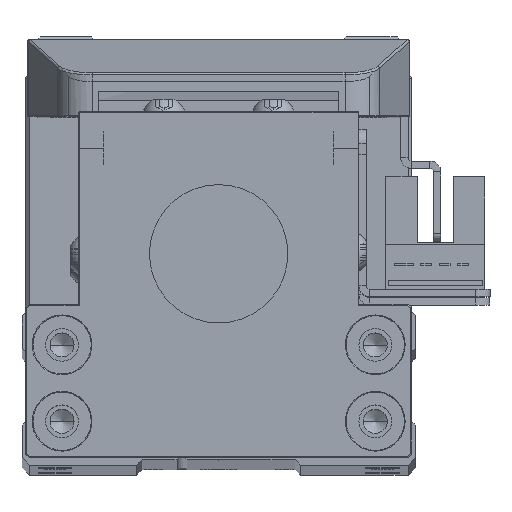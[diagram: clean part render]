
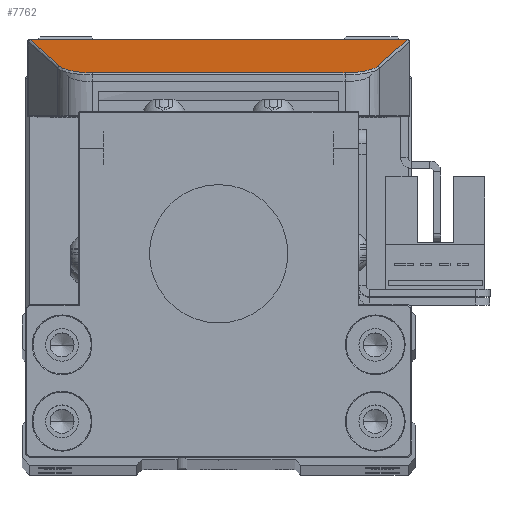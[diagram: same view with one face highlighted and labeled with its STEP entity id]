
A CAD part, top view. The second image highlights one B-rep face of the part: STEP entity #7762.
In plain terms, the highlighted planar face has unit normal (0, 0.962, 0.274) as drawn and (0, 0.274, 0.962) by its records, which use the part's own axes.
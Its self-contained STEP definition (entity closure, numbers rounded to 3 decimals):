
#506 = LINE ( 'NONE', #32580, #20196 ) ;
#697 = LINE ( 'NONE', #30013, #6692 ) ;
#1534 = CARTESIAN_POINT ( 'NONE',  ( -21.179, 24.03, -4.281 ) ) ;
#1935 = VECTOR ( 'NONE', #29127, 1000. ) ;
#2291 = ORIENTED_EDGE ( 'NONE', *, *, #24499, .T. ) ;
#2480 = EDGE_LOOP ( 'NONE', ( #31175, #8167, #20053, #26161, #2291, #6625, #32977, #25673 ) ) ;
#2935 = EDGE_CURVE ( 'NONE', #30004, #11469, #506, .T. ) ;
#3197 = FACE_OUTER_BOUND ( 'NONE', #2480, .T. ) ;
#5116 = DIRECTION ( 'NONE',  ( 0., 0.962, -0.274 ) ) ;
#5417 = DIRECTION ( 'NONE',  ( 0., -0.274, -0.962 ) ) ;
#5612 = CARTESIAN_POINT ( 'NONE',  ( -43.406, 25.5, -4.7 ) ) ;
#5723 = CARTESIAN_POINT ( 'NONE',  ( 21.823, 22.007, -3.705 ) ) ;
#5733 = PLANE ( 'NONE',  #21672 ) ;
#6625 = ORIENTED_EDGE ( 'NONE', *, *, #14847, .T. ) ;
#6679 = CARTESIAN_POINT ( 'NONE',  ( 15.221, 42.754, -9.615 ) ) ;
#6692 = VECTOR ( 'NONE', #29905, 1000. ) ;
#6789 = CARTESIAN_POINT ( 'NONE',  ( -17.344, 25.282, -4.638 ) ) ;
#7762 = ADVANCED_FACE ( 'NONE', ( #3197 ), #5733, .F. ) ;
#7888 = CARTESIAN_POINT ( 'NONE',  ( 25.876, 9.269, -0.077 ) ) ;
#8167 = ORIENTED_EDGE ( 'NONE', *, *, #24948, .T. ) ;
#9243 = CARTESIAN_POINT ( 'NONE',  ( -25.876, 9.269, -0.077 ) ) ;
#9286 = DIRECTION ( 'NONE',  ( -0.293, 0.92, -0.262 ) ) ;
#9383 = CARTESIAN_POINT ( 'NONE',  ( -21.823, 22.007, -3.705 ) ) ;
#10511 = CARTESIAN_POINT ( 'NONE',  ( 25.872, 9.281, -0.08 ) ) ;
#10755 = CARTESIAN_POINT ( 'NONE',  ( -25.87, 9.287, -0.082 ) ) ;
#11180 = CARTESIAN_POINT ( 'NONE',  ( 17.344, 25.282, -4.638 ) ) ;
#11277 = CARTESIAN_POINT ( 'NONE',  ( 21.823, 22.007, -3.705 ) ) ;
#11455 = CARTESIAN_POINT ( 'NONE',  ( 19.466, 25.282, -4.638 ) ) ;
#11469 = VERTEX_POINT ( 'NONE', #15733 ) ;
#11565 = CARTESIAN_POINT ( 'NONE',  ( 21.179, 24.03, -4.281 ) ) ;
#11924 =( BOUNDED_CURVE ( )  B_SPLINE_CURVE ( 3, ( #10755, #31112, #13355, #31228 ),
 .UNSPECIFIED., .F., .F. ) 
 B_SPLINE_CURVE_WITH_KNOTS ( ( 4, 4 ),
 ( 1.263, 1.274 ),
 .UNSPECIFIED. ) 
 CURVE ( )  GEOMETRIC_REPRESENTATION_ITEM ( )  RATIONAL_B_SPLINE_CURVE ( ( 1., 1., 1., 1. ) ) 
 REPRESENTATION_ITEM ( '' )  );
#12369 = EDGE_CURVE ( 'NONE', #20590, #15743, #697, .T. ) ;
#12828 = EDGE_CURVE ( 'NONE', #13728, #30170, #22752, .T. ) ;
#13155 = CARTESIAN_POINT ( 'NONE',  ( -25.87, 9.287, -0.082 ) ) ;
#13355 = CARTESIAN_POINT ( 'NONE',  ( -25.874, 9.275, -0.078 ) ) ;
#13509 = DIRECTION ( 'NONE',  ( 1., 0., 0. ) ) ;
#13728 = VERTEX_POINT ( 'NONE', #5723 ) ;
#14847 = EDGE_CURVE ( 'NONE', #17923, #20590, #24607, .T. ) ;
#15250 = CARTESIAN_POINT ( 'NONE',  ( 17.344, 25.282, -4.638 ) ) ;
#15733 = CARTESIAN_POINT ( 'NONE',  ( 25.876, 9.269, -0.077 ) ) ;
#15743 = VERTEX_POINT ( 'NONE', #13155 ) ;
#16697 =( BOUNDED_CURVE ( )  B_SPLINE_CURVE ( 3, ( #7888, #23355, #10511, #28440 ),
 .UNSPECIFIED., .F., .T. ) 
 B_SPLINE_CURVE_WITH_KNOTS ( ( 4, 4 ),
 ( 5.009, 5.02 ),
 .UNSPECIFIED. ) 
 CURVE ( )  GEOMETRIC_REPRESENTATION_ITEM ( )  RATIONAL_B_SPLINE_CURVE ( ( 1., 1., 1., 1. ) ) 
 REPRESENTATION_ITEM ( '' )  );
#17923 = VERTEX_POINT ( 'NONE', #29836 ) ;
#20053 = ORIENTED_EDGE ( 'NONE', *, *, #24233, .T. ) ;
#20196 = VECTOR ( 'NONE', #13509, 1000. ) ;
#20590 = VERTEX_POINT ( 'NONE', #29914 ) ;
#21458 = CARTESIAN_POINT ( 'NONE',  ( -17.344, 25.282, -4.638 ) ) ;
#21672 = AXIS2_PLACEMENT_3D ( 'NONE', #5612, #5417, #5116 ) ;
#22263 = CARTESIAN_POINT ( 'NONE',  ( -19.466, 25.282, -4.638 ) ) ;
#22489 = LINE ( 'NONE', #21458, #1935 ) ;
#22752 =( BOUNDED_CURVE ( )  B_SPLINE_CURVE ( 3, ( #11277, #11565, #11455, #11180 ),
 .UNSPECIFIED., .F., .F. ) 
 B_SPLINE_CURVE_WITH_KNOTS ( ( 4, 4 ),
 ( 5.02, 6.283 ),
 .UNSPECIFIED. ) 
 CURVE ( )  GEOMETRIC_REPRESENTATION_ITEM ( )  RATIONAL_B_SPLINE_CURVE ( ( 1., 0.871, 0.871, 1. ) ) 
 REPRESENTATION_ITEM ( '' )  );
#22795 = CARTESIAN_POINT ( 'NONE',  ( 25.87, 9.287, -0.082 ) ) ;
#23355 = CARTESIAN_POINT ( 'NONE',  ( 25.874, 9.275, -0.078 ) ) ;
#24069 = EDGE_CURVE ( 'NONE', #15743, #30004, #11924, .T. ) ;
#24233 = EDGE_CURVE ( 'NONE', #26615, #13728, #30428, .T. ) ;
#24499 = EDGE_CURVE ( 'NONE', #30170, #17923, #22489, .T. ) ;
#24607 =( BOUNDED_CURVE ( )  B_SPLINE_CURVE ( 3, ( #6789, #22263, #1534, #9383 ),
 .UNSPECIFIED., .F., .T. ) 
 B_SPLINE_CURVE_WITH_KNOTS ( ( 4, 4 ),
 ( 0., 1.263 ),
 .UNSPECIFIED. ) 
 CURVE ( )  GEOMETRIC_REPRESENTATION_ITEM ( )  RATIONAL_B_SPLINE_CURVE ( ( 1., 0.871, 0.871, 1. ) ) 
 REPRESENTATION_ITEM ( '' )  );
#24948 = EDGE_CURVE ( 'NONE', #11469, #26615, #16697, .T. ) ;
#25673 = ORIENTED_EDGE ( 'NONE', *, *, #24069, .T. ) ;
#26161 = ORIENTED_EDGE ( 'NONE', *, *, #12828, .T. ) ;
#26615 = VERTEX_POINT ( 'NONE', #22795 ) ;
#28440 = CARTESIAN_POINT ( 'NONE',  ( 25.87, 9.287, -0.082 ) ) ;
#29127 = DIRECTION ( 'NONE',  ( -1., 0., 0. ) ) ;
#29836 = CARTESIAN_POINT ( 'NONE',  ( -17.344, 25.282, -4.638 ) ) ;
#29905 = DIRECTION ( 'NONE',  ( -0.293, -0.92, 0.262 ) ) ;
#29914 = CARTESIAN_POINT ( 'NONE',  ( -21.823, 22.007, -3.705 ) ) ;
#30004 = VERTEX_POINT ( 'NONE', #9243 ) ;
#30013 = CARTESIAN_POINT ( 'NONE',  ( -22.655, 19.393, -2.96 ) ) ;
#30170 = VERTEX_POINT ( 'NONE', #15250 ) ;
#30428 = LINE ( 'NONE', #6679, #32033 ) ;
#31112 = CARTESIAN_POINT ( 'NONE',  ( -25.872, 9.281, -0.08 ) ) ;
#31175 = ORIENTED_EDGE ( 'NONE', *, *, #2935, .T. ) ;
#31228 = CARTESIAN_POINT ( 'NONE',  ( -25.876, 9.269, -0.077 ) ) ;
#32033 = VECTOR ( 'NONE', #9286, 1000. ) ;
#32580 = CARTESIAN_POINT ( 'NONE',  ( 26.25, 9.269, -0.077 ) ) ;
#32977 = ORIENTED_EDGE ( 'NONE', *, *, #12369, .T. ) ;
